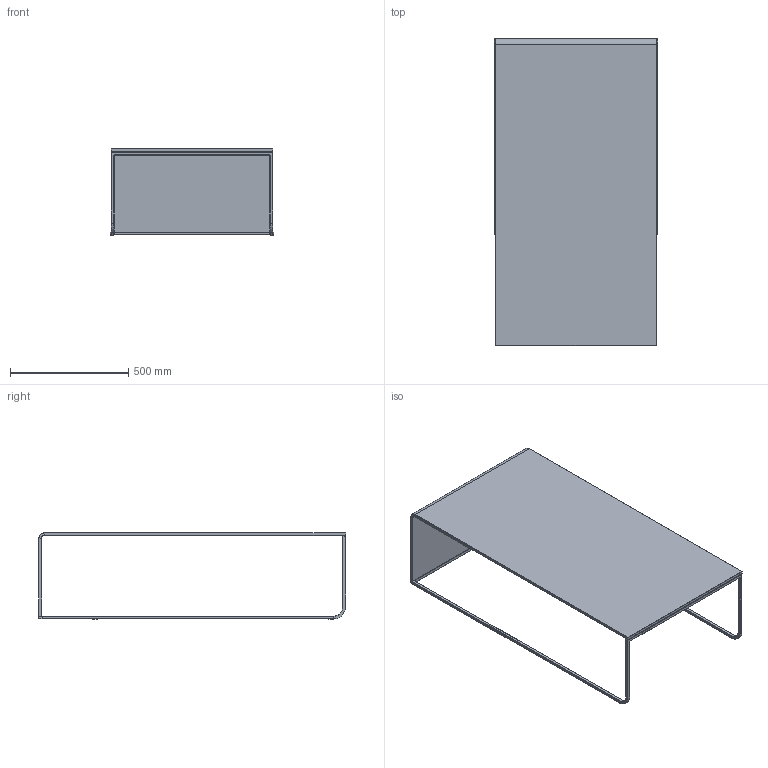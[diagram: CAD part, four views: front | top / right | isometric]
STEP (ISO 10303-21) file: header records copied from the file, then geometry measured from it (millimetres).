
FILE_DESCRIPTION((''),'2;1');
FILE_NAME('C:\AutodeskVault\AreaLavoro\Progetti\SoVeT Italia\2. Tavolini_Coffee tables\Nido\Web file\Nido Web\P4578.stp','2012-06-13T16:49:21',('Gianluca'),('So.Ve.T. s.r.l.'),'Autodesk Inventor 2013','Autodesk Inventor 2013','IL PROGETTO E'' DI ESCLUSIVA PROPRIETA'' DELLA SO.VE.T. srl. E'' VIETATA OGNI RIPRODUZIONE TOTALE O PARZIALE E QUALSIASI UTILIZZO NON AUTORIZZATO.');
FILE_SCHEMA(('AUTOMOTIVE_DESIGN { 1 0 10303 214 1 1 1 1 }'));
Length unit declared in the file: millimetre
Products named in the file (1): P4578 TR Contorno semplificato
Bounding box: 690.02 x 1300.98 x 366.5 mm (x, y, z)
Volume: 14099544.1 mm3; surface area: 2490756.5 mm2
Topology: 1 solids, 1 shells, 146 faces, 337 edges, 182 vertices
Faces by surface type: plane 65, cylinder 45, cone 12, torus 12, sphere 8, bspline 4
Full cylindrical faces by diameter (mm): 12 x2
Entity records: 4241 total; most frequent: CARTESIAN_POINT 806, DIRECTION 713, ORIENTED_EDGE 638, EDGE_CURVE 319, AXIS2_PLACEMENT_3D 257, VECTOR 199, LINE 199, VERTEX_POINT 180
